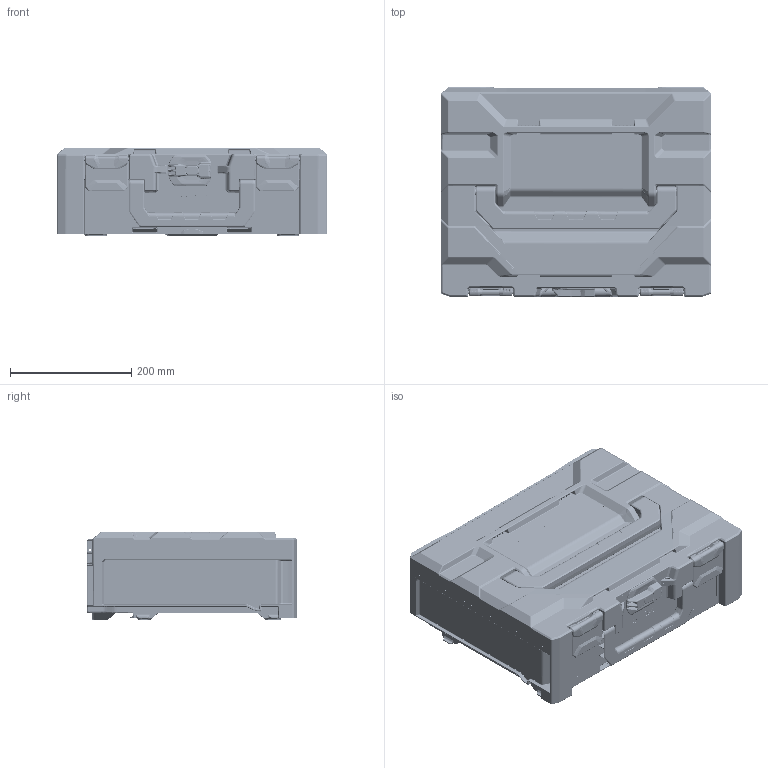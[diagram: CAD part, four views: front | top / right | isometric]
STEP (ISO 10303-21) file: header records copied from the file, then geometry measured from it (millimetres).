
FILE_DESCRIPTION(/* description */ (''),/* implementation_level */ '2;1');
FILE_NAME(/* name */ 'metaBOX_145_LBX.stp',/* time_stamp */ '2020-08-24T16:24:28+02:00',/* author */ (''),/* organization */ (''),/* preprocessor_version */ 'ST-DEVELOPER v16.7',/* originating_system */ 'SIEMENS PLM Software NX 12.0',/* authorisation */ '');
FILE_SCHEMA (('AUTOMOTIVE_DESIGN { 1 0 10303 214 3 1 1 1 }'));
Products named in the file (1): BU51342089kne2
Bounding box: 446.12 x 346.1 x 145 mm (x, y, z)
Volume: 1747616.4 mm3; surface area: 1463586.4 mm2
Topology: 7 solids, 7 shells, 13961 faces, 34153 edges, 19745 vertices
Faces by surface type: bspline 5382, cylinder 4646, plane 3041, sphere 420, cone 245, torus 217, extrusion 10
Full cylindrical faces by diameter (mm): 4 x12
Entity records: 529625 total; most frequent: CARTESIAN_POINT 235168, ORIENTED_EDGE 66952, DIRECTION 55394, EDGE_CURVE 33476, AXIS2_PLACEMENT_3D 21593, VERTEX_POINT 19704, EDGE_LOOP 14256, ADVANCED_FACE 13959
